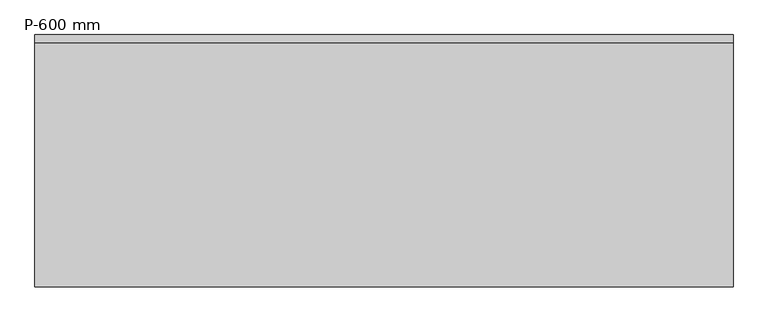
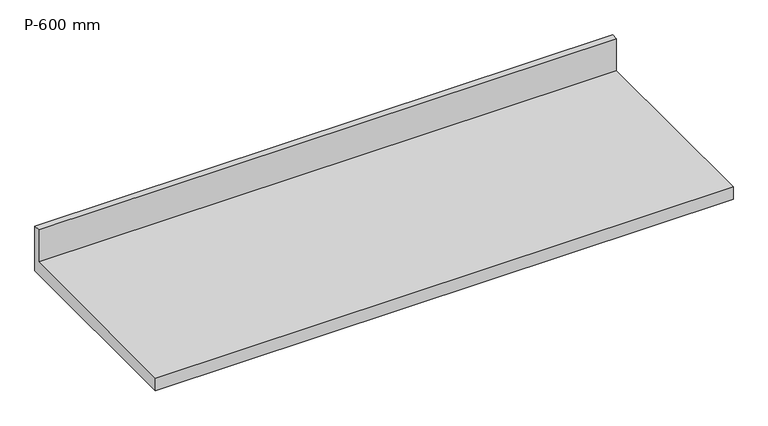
"""IFC4 building model written with IfcOpenShell, lengths in millimetres: furniture geometry, Plan de travail - Emplacement rond pour lavabo : P-600 mm."""

from ifc_helpers import new_model, si_unit, frame, origin, place, context, project, spatial, polyline, outline, extrude, source, transform, mapped, element, save


def p_600_mm_bf1ee1ba(model_context):
    return source(origin(), model_context, "Body", "SweptSolid", [
        extrude(outline(polyline([(-19.05, 851.6), (0.0, 851.6), (0.0, 710.0), (-625.0, 710.0), (-625.0, 750.0), (-19.05, 750.0), (-19.05, 851.6)])), frame((-1327.4622951, 0.0, 0.0), z_axis=(1.0, 0.0, 0.0), x_axis=(0.0, 1.0, 0.0)), (0.0, 0.0, 1.0), 1730.0),
    ])


if __name__ == "__main__":
    model = new_model("IFC4")
    model_context = context("Model", 3, world=origin())
    ifc_project = project(units=[si_unit("LENGTHUNIT", "METRE", prefix="MILLI")], contexts=[model_context])
    site = spatial("IfcSite", under=ifc_project)
    building = spatial("IfcBuilding", under=site)
    placement = place(None, origin())
    p_600_mm_shape = p_600_mm_bf1ee1ba(model_context)
    element("IfcFurniture", 1, ObjectType="Plan de travail - Emplacement rond pour lavabo : P-600 mm", at=placement, inside=building, context=model_context, shape_type="MappedRepresentation", body=[
        mapped(p_600_mm_shape, transform((0.0, 0.0, 0.0), x_axis=(1.0, 0.0, 0.0), y_axis=(0.0, 1.0, 0.0), z_axis=(0.0, 0.0, 1.0))),
    ])
    save(model, "model.ifc")
